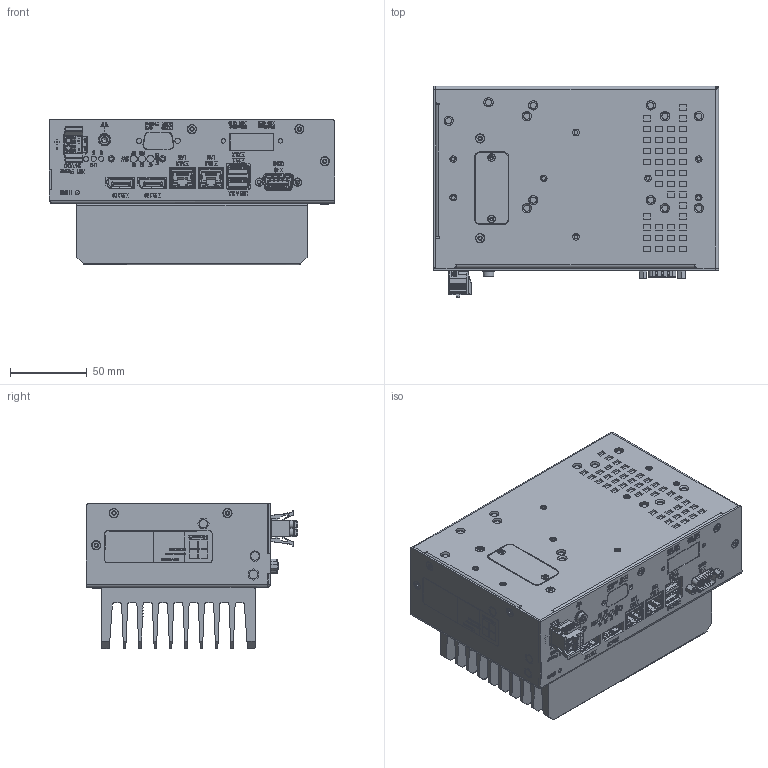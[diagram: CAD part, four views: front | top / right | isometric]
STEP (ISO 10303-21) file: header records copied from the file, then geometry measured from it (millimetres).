
FILE_DESCRIPTION(/* description */ (''),/* implementation_level */ '2;1');
FILE_NAME(/* name */ 'D:\Modelle vereinfacht\notion.B\_notion.B5_CPUa7\778-35998-00_IAM_000_Shrinkwrap_1.stp',/* time_stamp */ '2025-10-01T08:29:37+02:00',/* author */ ('Blessing'),/* organization */ (''),/* preprocessor_version */ 'ST-DEVELOPER v18.1',/* originating_system */ 'Autodesk Inventor 2021',/* authorisation */ '');
FILE_SCHEMA (('CONFIG_CONTROL_DESIGN'));
Products named in the file (1): 778-35998-00_IAM_000_Shrinkwrap_1
Bounding box: 186.13 x 137.8 x 95 mm (x, y, z)
Volume: 1518896.3 mm3; surface area: 198828.6 mm2
Topology: 1 solids, 9 shells, 9396 faces, 26365 edges, 17137 vertices
Faces by surface type: plane 6033, cylinder 1596, bspline 1561, cone 153, torus 31, sphere 22
Full cylindrical faces by diameter (mm): 0.457 x1, 0.5 x26, 0.6 x16, 0.65 x2, 0.7 x2, 0.8 x20, 0.9 x2, 2.156 x2, 2.459 x14, 2.7 x1, 2.8 x2, 3.3 x3, 3.5 x2, 4 x14, 4.22 x14, 4.3 x16, 4.7 x5, 5.54 x13, 7 x1
Entity records: 338802 total; most frequent: CARTESIAN_POINT 95192, ORIENTED_EDGE 52462, DIRECTION 41792, EDGE_CURVE 26350, LINE 19434, VECTOR 19434, VERTEX_POINT 17137, AXIS2_PLACEMENT_3D 11179
